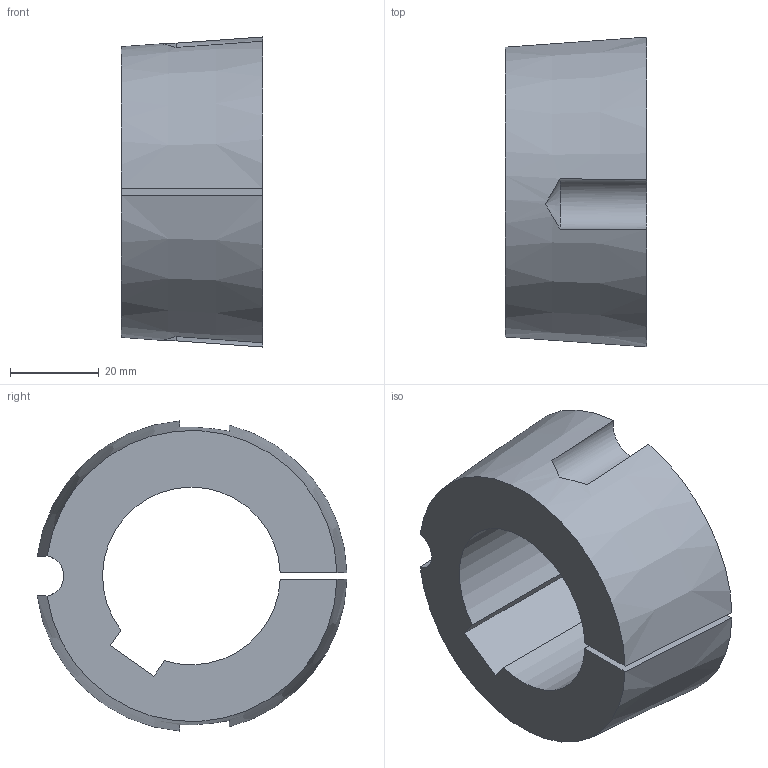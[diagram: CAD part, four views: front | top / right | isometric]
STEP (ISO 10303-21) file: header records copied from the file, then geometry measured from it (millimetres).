
FILE_DESCRIPTION( ( 'STEP AP203' ), '1' );
FILE_NAME( 'D:/export/antriebselemente/spannbuchsen_und_spannsaetze/taper-spannbuchsen_1008_bis_5050/taper-spannbuchsen_62250540Isometric_128.stp', '2018-12-11T11:11:14', ( '' ), ( '' ), ' ', 'PARTsolutions', ' ' );
FILE_SCHEMA( ( 'CONFIG_CONTROL_DESIGN' ) );
Length unit declared in the file: millimetre
Products named in the file (1): _taper-spannbuchsen_62250540
Bounding box: 31.8 x 69.72 x 69.81 mm (x, y, z)
Volume: 69177.1 mm3; surface area: 16752.8 mm2
Topology: 1 solids, 1 shells, 16 faces, 42 edges, 28 vertices
Faces by surface type: plane 7, cylinder 5, cone 4
Entity records: 618 total; most frequent: CARTESIAN_POINT 179, ORIENTED_EDGE 84, DIRECTION 82, EDGE_CURVE 42, AXIS2_PLACEMENT_3D 33, VERTEX_POINT 28, ADVANCED_FACE 16, FACE_OUTER_BOUND 16
